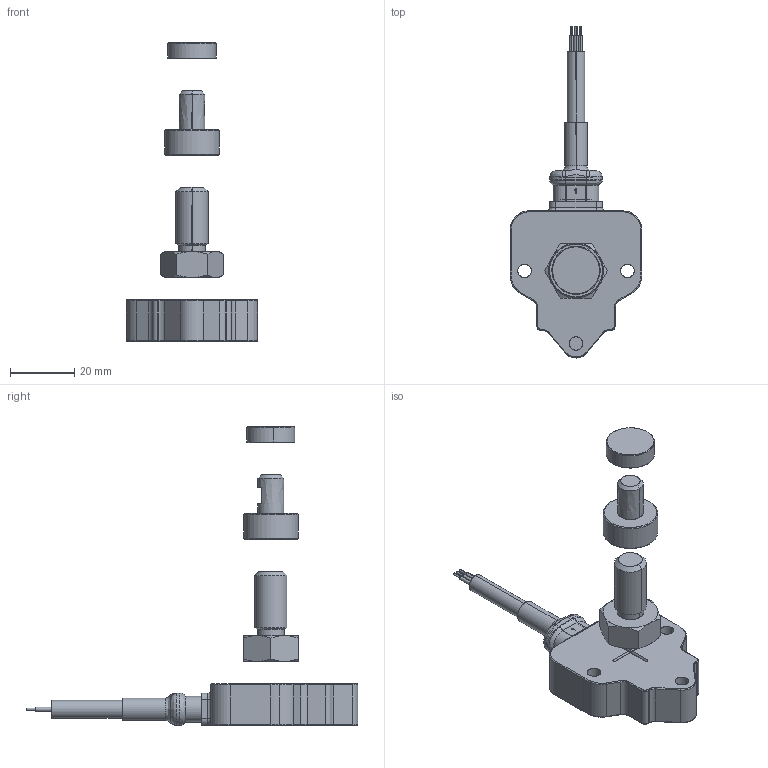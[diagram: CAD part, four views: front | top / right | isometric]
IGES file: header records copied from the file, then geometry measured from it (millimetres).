
Start section: SolidWorks IGES file using analytic representation for surfaces
Global section: file name: \\srv4gefran\dir-cat\Disegni Catalogo\Mobile\GRN\GRN 6P\3D\Solidworks 2018\GRN-6P-CAVO\GRN 6P CAVO.IGS; native system: SolidWorks 2018; preprocessor: SolidWorks 2018; author: Loda-w1; date: 180227.151449; units: millimetre
Bounding box: 41 x 103.25 x 92.9 mm (x, y, z)
Surface area: 15251.5 mm2 (no closed solid volume)
Topology: 0 solids, 0 shells, 418 faces, 4675 edges, 4675 vertices
Faces by surface type: bspline 210, revolution 208
